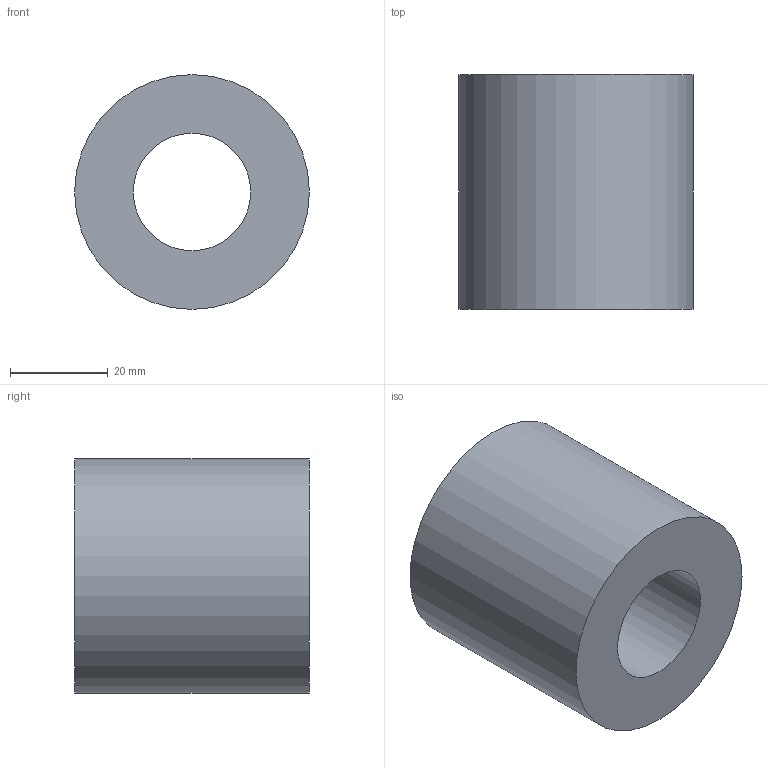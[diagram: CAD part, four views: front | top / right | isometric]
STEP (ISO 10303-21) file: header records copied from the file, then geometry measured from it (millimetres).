
FILE_DESCRIPTION(('Open CASCADE Model'),'2;1');
FILE_NAME('Open CASCADE Shape Model','2026-10-17T16:45:05',('Author'),( 'Open CASCADE'),'Open CASCADE STEP processor 8.0','build123d', 'Unknown');
FILE_SCHEMA(('AUTOMOTIVE_DESIGN { 1 0 10303 214 1 1 1 1 }'));
Length unit declared in the file: millimetre
Products named in the file (1): COMPOUND
Bounding box: 48 x 48 x 48 mm (x, y, z)
Volume: 65144.1 mm3; surface area: 13571.7 mm2
Topology: 1 solids, 1 shells, 4 faces, 6 edges, 4 vertices
Faces by surface type: cylinder 2, plane 2
Full cylindrical faces by diameter (mm): 24 x1, 48 x1
Entity records: 186 total; most frequent: DIRECTION 32, CARTESIAN_POINT 27, ORIENTED_EDGE 12, PCURVE 12, DEFINITIONAL_REPRESENTATION 12, LINE 10, VECTOR 10, AXIS2_PLACEMENT_3D 9
